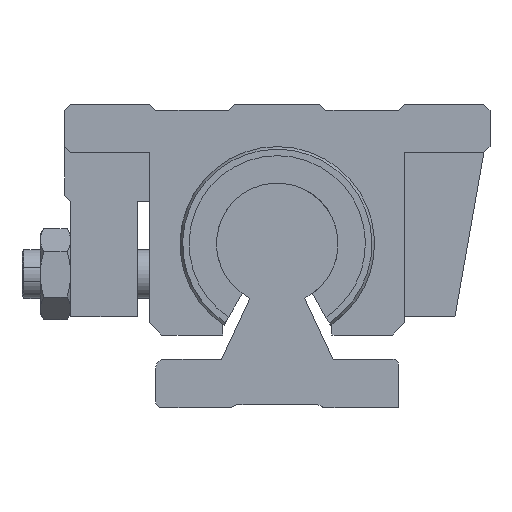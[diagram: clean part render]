
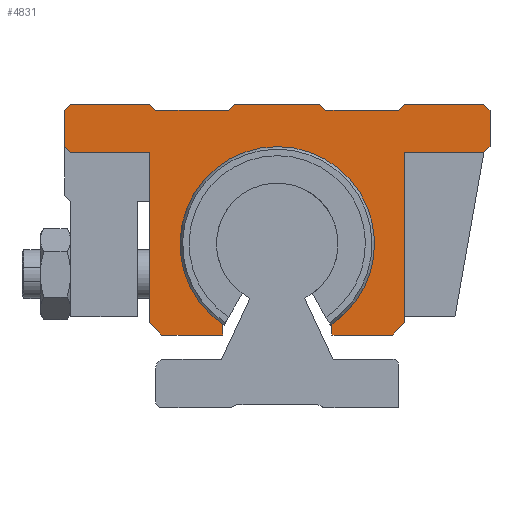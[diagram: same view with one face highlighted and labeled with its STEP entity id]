
A CAD part, left-side view. The second image highlights one B-rep face of the part: STEP entity #4831.
In plain terms, the highlighted planar face has unit normal (-1, 0, 0).
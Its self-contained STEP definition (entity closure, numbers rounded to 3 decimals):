
#4476=CARTESIAN_POINT('',(251.037,-9.,13.771));
#4477=VERTEX_POINT('',#4476);
#4484=CARTESIAN_POINT('',(251.037,9.,13.771));
#4485=VERTEX_POINT('',#4484);
#4486=CARTESIAN_POINT('',(251.037,0.,27.0));
#4487=DIRECTION('',(-1.0,0.0,0.0));
#4488=DIRECTION('',(0.0,-0.563,0.827));
#4489=AXIS2_PLACEMENT_3D('',#4486,#4487,#4488);
#4490=CIRCLE('',#4489,16.0);
#4491=EDGE_CURVE('',#4477,#4485,#4490,.T.);
#4593=CARTESIAN_POINT('',(251.037,-35.,43.));
#4594=VERTEX_POINT('',#4593);
#4601=CARTESIAN_POINT('',(251.037,-34.,42.0));
#4602=VERTEX_POINT('',#4601);
#4603=CARTESIAN_POINT('',(251.037,-35.,43.));
#4604=DIRECTION('',(0.0,0.707,-0.707));
#4605=VECTOR('',#4604,1.414);
#4606=LINE('',#4603,#4605);
#4607=EDGE_CURVE('',#4594,#4602,#4606,.T.);
#4634=CARTESIAN_POINT('',(251.037,-28.,49.5));
#4635=DIRECTION('',(1.0,0.0,0.0));
#4636=DIRECTION('',(0.0,0.0,-1.0));
#4637=AXIS2_PLACEMENT_3D('',#4634,#4635,#4636);
#4638=PLANE('',#4637);
#4639=ORIENTED_EDGE('',*,*,#4607,.F.);
#4640=CARTESIAN_POINT('',(251.037,-35.,49.));
#4641=VERTEX_POINT('',#4640);
#4642=CARTESIAN_POINT('',(251.037,-35.,49.));
#4643=DIRECTION('',(0.0,0.0,-1.0));
#4644=VECTOR('',#4643,6.);
#4645=LINE('',#4642,#4644);
#4646=EDGE_CURVE('',#4641,#4594,#4645,.T.);
#4647=ORIENTED_EDGE('',*,*,#4646,.F.);
#4648=CARTESIAN_POINT('',(251.037,-34.,50.0));
#4649=VERTEX_POINT('',#4648);
#4650=CARTESIAN_POINT('',(251.037,-34.,50.0));
#4651=DIRECTION('',(0.0,-0.707,-0.707));
#4652=VECTOR('',#4651,1.414);
#4653=LINE('',#4650,#4652);
#4654=EDGE_CURVE('',#4649,#4641,#4653,.T.);
#4655=ORIENTED_EDGE('',*,*,#4654,.F.);
#4656=CARTESIAN_POINT('',(251.037,-21.,50.0));
#4657=VERTEX_POINT('',#4656);
#4658=CARTESIAN_POINT('',(251.037,-21.,50.0));
#4659=DIRECTION('',(0.0,-1.0,0.0));
#4660=VECTOR('',#4659,13.);
#4661=LINE('',#4658,#4660);
#4662=EDGE_CURVE('',#4657,#4649,#4661,.T.);
#4663=ORIENTED_EDGE('',*,*,#4662,.F.);
#4664=CARTESIAN_POINT('',(251.037,-20.,49.));
#4665=VERTEX_POINT('',#4664);
#4666=CARTESIAN_POINT('',(251.037,-20.,49.));
#4667=DIRECTION('',(0.0,-0.707,0.707));
#4668=VECTOR('',#4667,1.414);
#4669=LINE('',#4666,#4668);
#4670=EDGE_CURVE('',#4665,#4657,#4669,.T.);
#4671=ORIENTED_EDGE('',*,*,#4670,.F.);
#4672=CARTESIAN_POINT('',(251.037,-8.,49.));
#4673=VERTEX_POINT('',#4672);
#4674=CARTESIAN_POINT('',(251.037,-8.,49.));
#4675=DIRECTION('',(0.0,-1.0,0.0));
#4676=VECTOR('',#4675,12.);
#4677=LINE('',#4674,#4676);
#4678=EDGE_CURVE('',#4673,#4665,#4677,.T.);
#4679=ORIENTED_EDGE('',*,*,#4678,.F.);
#4680=CARTESIAN_POINT('',(251.037,-7.,50.0));
#4681=VERTEX_POINT('',#4680);
#4682=CARTESIAN_POINT('',(251.037,-7.,50.0));
#4683=DIRECTION('',(0.0,-0.707,-0.707));
#4684=VECTOR('',#4683,1.414);
#4685=LINE('',#4682,#4684);
#4686=EDGE_CURVE('',#4681,#4673,#4685,.T.);
#4687=ORIENTED_EDGE('',*,*,#4686,.F.);
#4688=CARTESIAN_POINT('',(251.037,7.,50.0));
#4689=VERTEX_POINT('',#4688);
#4690=CARTESIAN_POINT('',(251.037,7.,50.0));
#4691=DIRECTION('',(0.0,-1.0,0.0));
#4692=VECTOR('',#4691,14.);
#4693=LINE('',#4690,#4692);
#4694=EDGE_CURVE('',#4689,#4681,#4693,.T.);
#4695=ORIENTED_EDGE('',*,*,#4694,.F.);
#4696=CARTESIAN_POINT('',(251.037,8.,49.));
#4697=VERTEX_POINT('',#4696);
#4698=CARTESIAN_POINT('',(251.037,8.,49.));
#4699=DIRECTION('',(0.0,-0.707,0.707));
#4700=VECTOR('',#4699,1.414);
#4701=LINE('',#4698,#4700);
#4702=EDGE_CURVE('',#4697,#4689,#4701,.T.);
#4703=ORIENTED_EDGE('',*,*,#4702,.F.);
#4704=CARTESIAN_POINT('',(251.037,20.,49.));
#4705=VERTEX_POINT('',#4704);
#4706=CARTESIAN_POINT('',(251.037,20.,49.));
#4707=DIRECTION('',(0.0,-1.0,0.0));
#4708=VECTOR('',#4707,12.);
#4709=LINE('',#4706,#4708);
#4710=EDGE_CURVE('',#4705,#4697,#4709,.T.);
#4711=ORIENTED_EDGE('',*,*,#4710,.F.);
#4712=CARTESIAN_POINT('',(251.037,21.,50.0));
#4713=VERTEX_POINT('',#4712);
#4714=CARTESIAN_POINT('',(251.037,21.,50.0));
#4715=DIRECTION('',(0.0,-0.707,-0.707));
#4716=VECTOR('',#4715,1.414);
#4717=LINE('',#4714,#4716);
#4718=EDGE_CURVE('',#4713,#4705,#4717,.T.);
#4719=ORIENTED_EDGE('',*,*,#4718,.F.);
#4720=CARTESIAN_POINT('',(251.037,34.,50.0));
#4721=VERTEX_POINT('',#4720);
#4722=CARTESIAN_POINT('',(251.037,34.,50.0));
#4723=DIRECTION('',(0.0,-1.0,0.0));
#4724=VECTOR('',#4723,13.);
#4725=LINE('',#4722,#4724);
#4726=EDGE_CURVE('',#4721,#4713,#4725,.T.);
#4727=ORIENTED_EDGE('',*,*,#4726,.F.);
#4728=CARTESIAN_POINT('',(251.037,35.,49.0));
#4729=VERTEX_POINT('',#4728);
#4730=CARTESIAN_POINT('',(251.037,35.,49.0));
#4731=DIRECTION('',(0.0,-0.707,0.707));
#4732=VECTOR('',#4731,1.414);
#4733=LINE('',#4730,#4732);
#4734=EDGE_CURVE('',#4729,#4721,#4733,.T.);
#4735=ORIENTED_EDGE('',*,*,#4734,.F.);
#4736=CARTESIAN_POINT('',(251.037,35.,43.));
#4737=VERTEX_POINT('',#4736);
#4738=CARTESIAN_POINT('',(251.037,35.,43.));
#4739=DIRECTION('',(0.0,0.0,1.0));
#4740=VECTOR('',#4739,6.);
#4741=LINE('',#4738,#4740);
#4742=EDGE_CURVE('',#4737,#4729,#4741,.T.);
#4743=ORIENTED_EDGE('',*,*,#4742,.F.);
#4744=CARTESIAN_POINT('',(251.037,34.,42.0));
#4745=VERTEX_POINT('',#4744);
#4746=CARTESIAN_POINT('',(251.037,34.,42.0));
#4747=DIRECTION('',(0.0,0.707,0.707));
#4748=VECTOR('',#4747,1.414);
#4749=LINE('',#4746,#4748);
#4750=EDGE_CURVE('',#4745,#4737,#4749,.T.);
#4751=ORIENTED_EDGE('',*,*,#4750,.F.);
#4752=CARTESIAN_POINT('',(251.037,21.,42.0));
#4753=VERTEX_POINT('',#4752);
#4754=CARTESIAN_POINT('',(251.037,21.,42.0));
#4755=DIRECTION('',(0.0,1.0,0.0));
#4756=VECTOR('',#4755,13.0);
#4757=LINE('',#4754,#4756);
#4758=EDGE_CURVE('',#4753,#4745,#4757,.T.);
#4759=ORIENTED_EDGE('',*,*,#4758,.F.);
#4760=CARTESIAN_POINT('',(251.037,21.,14.));
#4761=VERTEX_POINT('',#4760);
#4762=CARTESIAN_POINT('',(251.037,21.,14.));
#4763=DIRECTION('',(0.0,0.0,1.0));
#4764=VECTOR('',#4763,28.);
#4765=LINE('',#4762,#4764);
#4766=EDGE_CURVE('',#4761,#4753,#4765,.T.);
#4767=ORIENTED_EDGE('',*,*,#4766,.F.);
#4768=CARTESIAN_POINT('',(251.037,19.,12.));
#4769=VERTEX_POINT('',#4768);
#4770=CARTESIAN_POINT('',(251.037,19.,12.));
#4771=DIRECTION('',(0.0,0.707,0.707));
#4772=VECTOR('',#4771,2.828);
#4773=LINE('',#4770,#4772);
#4774=EDGE_CURVE('',#4769,#4761,#4773,.T.);
#4775=ORIENTED_EDGE('',*,*,#4774,.F.);
#4776=CARTESIAN_POINT('',(251.037,9.,12.));
#4777=VERTEX_POINT('',#4776);
#4778=CARTESIAN_POINT('',(251.037,9.,12.));
#4779=DIRECTION('',(0.0,1.0,0.0));
#4780=VECTOR('',#4779,10.);
#4781=LINE('',#4778,#4780);
#4782=EDGE_CURVE('',#4777,#4769,#4781,.T.);
#4783=ORIENTED_EDGE('',*,*,#4782,.F.);
#4784=CARTESIAN_POINT('',(251.037,9.,13.771));
#4785=DIRECTION('',(0.0,0.0,-1.0));
#4786=VECTOR('',#4785,1.771);
#4787=LINE('',#4784,#4786);
#4788=EDGE_CURVE('',#4485,#4777,#4787,.T.);
#4789=ORIENTED_EDGE('',*,*,#4788,.F.);
#4790=ORIENTED_EDGE('',*,*,#4491,.F.);
#4791=CARTESIAN_POINT('',(251.037,-9.,12.));
#4792=VERTEX_POINT('',#4791);
#4793=CARTESIAN_POINT('',(251.037,-9.,12.));
#4794=DIRECTION('',(0.0,0.0,1.0));
#4795=VECTOR('',#4794,1.771);
#4796=LINE('',#4793,#4795);
#4797=EDGE_CURVE('',#4792,#4477,#4796,.T.);
#4798=ORIENTED_EDGE('',*,*,#4797,.F.);
#4799=CARTESIAN_POINT('',(251.037,-19.,12.));
#4800=VERTEX_POINT('',#4799);
#4801=CARTESIAN_POINT('',(251.037,-19.,12.));
#4802=DIRECTION('',(0.0,1.0,0.0));
#4803=VECTOR('',#4802,10.);
#4804=LINE('',#4801,#4803);
#4805=EDGE_CURVE('',#4800,#4792,#4804,.T.);
#4806=ORIENTED_EDGE('',*,*,#4805,.F.);
#4807=CARTESIAN_POINT('',(251.037,-21.,14.));
#4808=VERTEX_POINT('',#4807);
#4809=CARTESIAN_POINT('',(251.037,-21.,14.));
#4810=DIRECTION('',(0.0,0.707,-0.707));
#4811=VECTOR('',#4810,2.828);
#4812=LINE('',#4809,#4811);
#4813=EDGE_CURVE('',#4808,#4800,#4812,.T.);
#4814=ORIENTED_EDGE('',*,*,#4813,.F.);
#4815=CARTESIAN_POINT('',(251.037,-21.,42.0));
#4816=VERTEX_POINT('',#4815);
#4817=CARTESIAN_POINT('',(251.037,-21.,42.0));
#4818=DIRECTION('',(0.0,0.0,-1.0));
#4819=VECTOR('',#4818,28.);
#4820=LINE('',#4817,#4819);
#4821=EDGE_CURVE('',#4816,#4808,#4820,.T.);
#4822=ORIENTED_EDGE('',*,*,#4821,.F.);
#4823=CARTESIAN_POINT('',(251.037,-34.,42.0));
#4824=DIRECTION('',(0.0,1.0,0.0));
#4825=VECTOR('',#4824,13.);
#4826=LINE('',#4823,#4825);
#4827=EDGE_CURVE('',#4602,#4816,#4826,.T.);
#4828=ORIENTED_EDGE('',*,*,#4827,.F.);
#4829=EDGE_LOOP('',(#4639,#4647,#4655,#4663,#4671,#4679,#4687,#4695,#4703,#4711,#4719,#4727,#4735,#4743,#4751,#4759,#4767,#4775,#4783,#4789,#4790,#4798,#4806,#4814,#4822,#4828));
#4830=FACE_OUTER_BOUND('',#4829,.T.);
#4831=ADVANCED_FACE('',(#4830),#4638,.F.);
